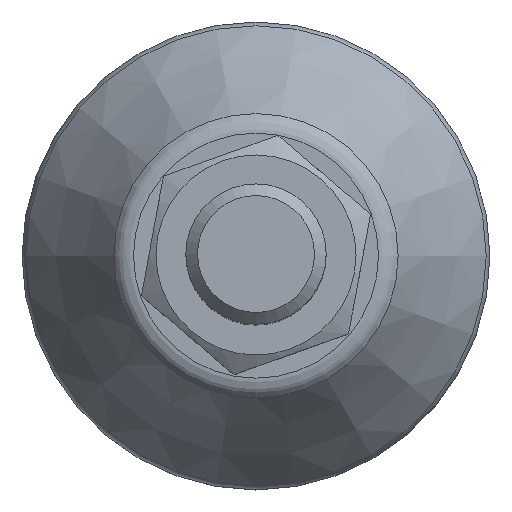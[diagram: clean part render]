
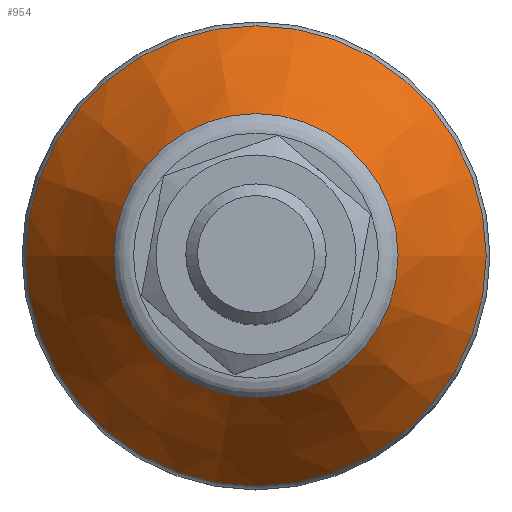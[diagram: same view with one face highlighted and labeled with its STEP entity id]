
A CAD part, top view. The second image highlights one B-rep face of the part: STEP entity #954.
In plain terms, the highlighted conical face has half-angle 33 degrees and reference radius 15.913 mm.
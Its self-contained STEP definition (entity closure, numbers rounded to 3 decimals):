
#954=ADVANCED_FACE('',(#2043,#2045),#2047,.T.);
#2043=FACE_BOUND('',#2044,.T.);
#2044=EDGE_LOOP('',(#2971,#2972));
#2045=FACE_BOUND('',#2046,.T.);
#2046=EDGE_LOOP('',(#2973,#2974));
#2047=CONICAL_SURFACE('',#2048,15.913,0.576);
#2048=AXIS2_PLACEMENT_3D('',#2049,#2050,#2051);
#2049=CARTESIAN_POINT('',(0.,0.,11.293));
#2050=DIRECTION('',(0.,0.,-1.));
#2051=DIRECTION('',(1.,0.,0.));
#2971=ORIENTED_EDGE('',*,*,#3474,.T.);
#2972=ORIENTED_EDGE('',*,*,#3473,.T.);
#2973=ORIENTED_EDGE('',*,*,#3477,.F.);
#2974=ORIENTED_EDGE('',*,*,#3478,.F.);
#3473=EDGE_CURVE('',#4021,#4022,#4023,.T.);
#3474=EDGE_CURVE('',#4022,#4021,#4024,.T.);
#3477=EDGE_CURVE('',#4029,#4030,#4031,.T.);
#3478=EDGE_CURVE('',#4030,#4029,#4032,.T.);
#4021=VERTEX_POINT('',#6971);
#4022=VERTEX_POINT('',#6972);
#4023=CIRCLE('',#6973,19.677);
#4024=CIRCLE('',#6977,19.677);
#4029=VERTEX_POINT('',#6991);
#4030=VERTEX_POINT('',#6992);
#4031=CIRCLE('',#6993,12.149);
#4032=CIRCLE('',#6997,12.149);
#6971=CARTESIAN_POINT('',(-19.677,0.,5.497));
#6972=CARTESIAN_POINT('',(19.677,0.,5.497));
#6973=AXIS2_PLACEMENT_3D('',#6974,#6975,#6976);
#6974=CARTESIAN_POINT('',(0.,0.,5.497));
#6975=DIRECTION('',(0.,0.,1.));
#6976=DIRECTION('',(-1.,0.,0.));
#6977=AXIS2_PLACEMENT_3D('',#6978,#6979,#6980);
#6978=CARTESIAN_POINT('',(0.,0.,5.497));
#6979=DIRECTION('',(0.,0.,1.));
#6980=DIRECTION('',(1.,0.,0.));
#6991=CARTESIAN_POINT('',(-12.149,0.,17.089));
#6992=CARTESIAN_POINT('',(12.149,0.,17.089));
#6993=AXIS2_PLACEMENT_3D('',#6994,#6995,#6996);
#6994=CARTESIAN_POINT('',(0.,0.,17.089));
#6995=DIRECTION('',(0.,0.,1.));
#6996=DIRECTION('',(-1.,0.,0.));
#6997=AXIS2_PLACEMENT_3D('',#6998,#6999,#7000);
#6998=CARTESIAN_POINT('',(0.,0.,17.089));
#6999=DIRECTION('',(0.,0.,1.));
#7000=DIRECTION('',(1.,0.,0.));
